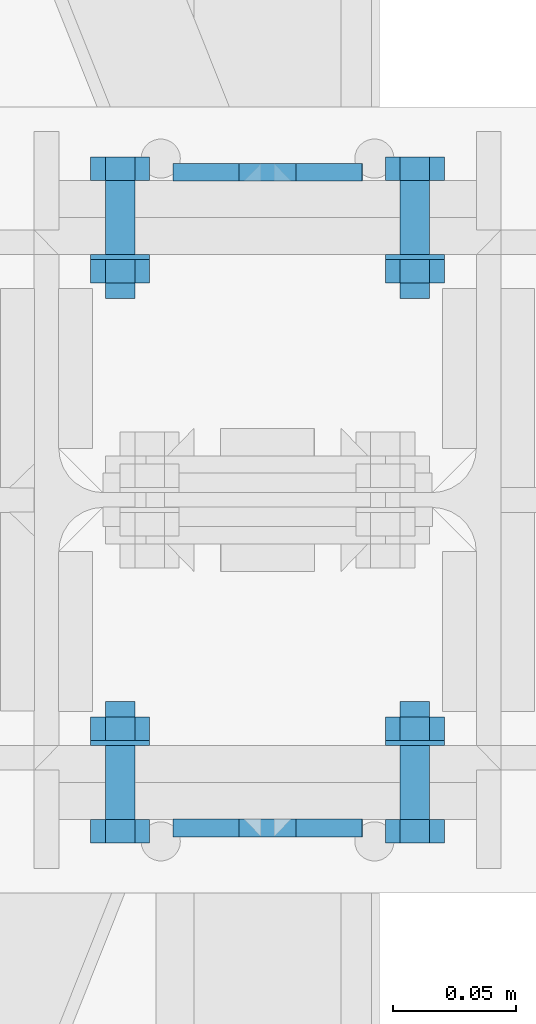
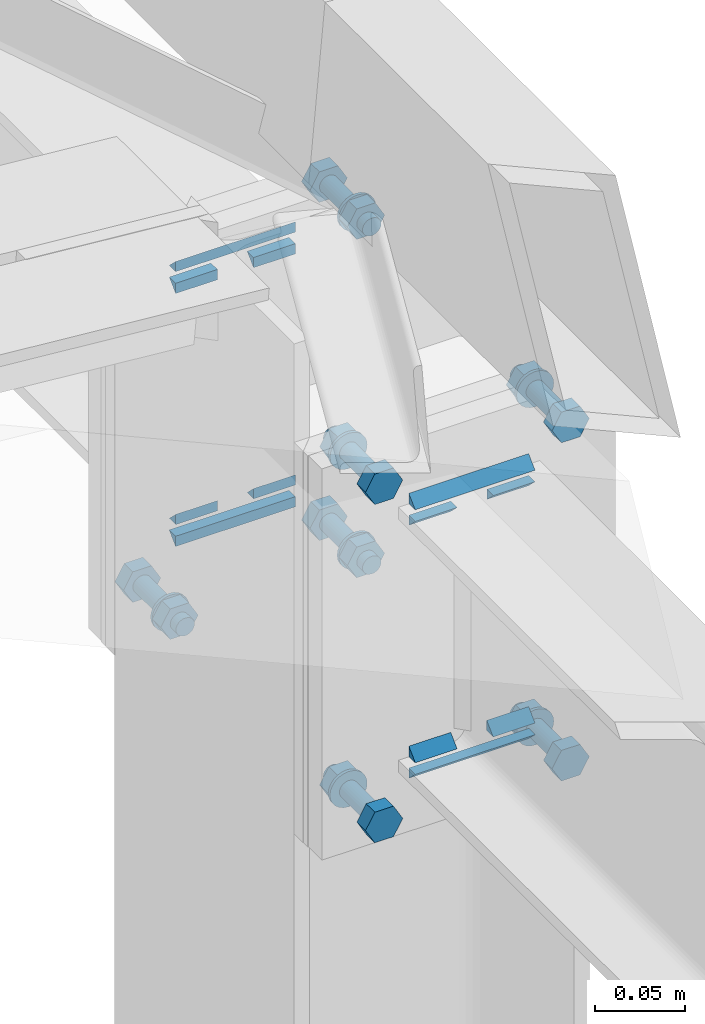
# One storey, part 165 of 251: 28 mechanical fasteners, 24 fasteners.
"""IFC4 building model written with IfcOpenShell, lengths in metres."""

from ifc_helpers import new_model, si_unit, frame, origin_with_axes, place, context, project, spatial, polyline, outline, extrude, type_object, element, save


model = new_model("IFC4")

# Units and contexts
model_context = context("Model", 3, precision=1e-05, world=origin_with_axes())
ifc_project = project(units=[si_unit("LENGTHUNIT", "METRE"), si_unit("AREAUNIT", "SQUARE_METRE"), si_unit("VOLUMEUNIT", "CUBIC_METRE"), si_unit("MASSUNIT", "GRAM", prefix="KILO"), si_unit("TIMEUNIT", "SECOND"), si_unit("PLANEANGLEUNIT", "RADIAN"), si_unit("SOLIDANGLEUNIT", "STERADIAN"), si_unit("THERMODYNAMICTEMPERATUREUNIT", "DEGREE_CELSIUS")], contexts=[model_context])

# Site, building, storey
placement_1 = place(None, origin_with_axes())
site = spatial("IfcSite", under=ifc_project, at=placement_1, Name="Italia", CompositionType="ELEMENT")
building = spatial("IfcBuilding", under=site, at=placement_1, Name="Deposito", CompositionType="ELEMENT")
storey = spatial("IfcBuildingStorey", under=building, at=placement_1, Name="Storey 0", CompositionType="ELEMENT", Elevation=0.0)

# Fasteners
fastener_type_1 = type_object("IfcFastenerType", Name="Collegamenti -064_-065 -065_-064 -065_-066 -066_-065 -066_-067 -067_-066 -067_-068 -068_-067", PredefinedType="WELD")
placement_2 = place(placement_1, origin_with_axes())
fastener_1_placement = place(placement_2, origin_with_axes())
element("IfcFastener", 1, at=fastener_1_placement, inside=storey, type_object=fastener_type_1, Name="Collegamenti -064_-065 -065_-064 -065_-066 -066_-065 -066_-067 -067_-066 -067_-068 -068_-067", context=model_context, shape_type="SweptSolid", body=[
    extrude(outline(polyline([(0.0, 0.0), (0.00717354, -0.00695801), (0.0, -0.00695801), (0.0, 0.0)])), frame((20.0385, 9.87005, 5.89691), z_axis=(-1.0, 0.0, 0.0), x_axis=(0.0, -1.0, 0.0)), (0.0, 0.0, 1.0), 0.0770988),
])
fastener_type_2 = type_object("IfcFastenerType", Name="Collegamenti -064_-065 -065_-064 -065_-066 -066_-065 -066_-067 -067_-066 -067_-068 -068_-067", PredefinedType="WELD")
fastener_2_placement = place(placement_2, origin_with_axes())
element("IfcFastener", 2, at=fastener_2_placement, inside=storey, type_object=fastener_type_2, Name="Collegamenti -064_-065 -065_-064 -065_-066 -066_-065 -066_-067 -067_-066 -067_-068 -068_-067", context=model_context, shape_type="SweptSolid", body=[
    extrude(outline(polyline([(0.0, 0.0), (-0.00717354, 0.00695801), (0.0, 0.00695801), (0.0, 0.0)])), frame((20.0116, 9.87005, 5.87509), z_axis=(1.0, 0.0, 0.0), x_axis=(0.0, 1.0, 0.0)), (0.0, 0.0, 1.0), 0.0269508),
])
fastener_type_3 = type_object("IfcFastenerType", Name="Collegamenti -064_-065 -065_-064 -065_-066 -066_-065 -066_-067 -067_-066 -067_-068 -068_-067", PredefinedType="WELD")
fastener_3_placement = place(placement_2, origin_with_axes())
element("IfcFastener", 3, at=fastener_3_placement, inside=storey, type_object=fastener_type_3, Name="Collegamenti -064_-065 -065_-064 -065_-066 -066_-065 -066_-067 -067_-066 -067_-068 -068_-067", context=model_context, shape_type="SweptSolid", body=[
    extrude(outline(polyline([(0.0, 0.0), (0.00717354, -0.00695801), (0.0, -0.00695801), (0.0, 0.0)])), frame((20.0385, 9.87005, 5.72491), z_axis=(-1.0, 0.0, 0.0), x_axis=(0.0, -1.0, 0.0)), (0.0, 0.0, 1.0), 0.0269508),
])
fastener_type_4 = type_object("IfcFastenerType", Name="Collegamenti -064_-065 -065_-064 -065_-066 -066_-065 -066_-067 -067_-066 -067_-068 -068_-067", PredefinedType="WELD")
fastener_4_placement = place(placement_2, origin_with_axes())
element("IfcFastener", 4, at=fastener_4_placement, inside=storey, type_object=fastener_type_4, Name="Collegamenti -064_-065 -065_-064 -065_-066 -066_-065 -066_-067 -067_-066 -067_-068 -068_-067", context=model_context, shape_type="SweptSolid", body=[
    extrude(outline(polyline([(0.0, 0.0), (-0.00717354, 0.00695801), (0.0, 0.00695801), (0.0, 0.0)])), frame((19.9615, 9.87005, 5.70309), z_axis=(1.0, 0.0, 0.0), x_axis=(0.0, 1.0, 0.0)), (0.0, 0.0, 1.0), 0.0770988),
])
fastener_type_5 = type_object("IfcFastenerType", Name="Collegamenti -064_-065 -065_-064 -065_-066 -066_-065 -066_-067 -067_-066 -067_-068 -068_-067", PredefinedType="WELD")
fastener_5_placement = place(placement_2, origin_with_axes())
element("IfcFastener", 5, at=fastener_5_placement, inside=storey, type_object=fastener_type_5, Name="Collegamenti -064_-065 -065_-064 -065_-066 -066_-065 -066_-067 -067_-066 -067_-068 -068_-067", context=model_context, shape_type="SweptSolid", body=[
    extrude(outline(polyline([(0.0, 0.0), (0.00717354, -0.00695801), (0.0, -0.00695801), (0.0, 0.0)])), frame((19.9884, 9.87005, 5.72491), z_axis=(-1.0, 0.0, 0.0), x_axis=(0.0, -1.0, 0.0)), (0.0, 0.0, 1.0), 0.0269508),
])
fastener_type_6 = type_object("IfcFastenerType", Name="Collegamenti -064_-065 -065_-064 -065_-066 -066_-065 -066_-067 -067_-066 -067_-068 -068_-067", PredefinedType="WELD")
fastener_6_placement = place(placement_2, origin_with_axes())
element("IfcFastener", 6, at=fastener_6_placement, inside=storey, type_object=fastener_type_6, Name="Collegamenti -064_-065 -065_-064 -065_-066 -066_-065 -066_-067 -067_-066 -067_-068 -068_-067", context=model_context, shape_type="SweptSolid", body=[
    extrude(outline(polyline([(0.0, 0.0), (-0.00717354, 0.00695801), (0.0, 0.00695801), (0.0, 0.0)])), frame((19.9615, 9.87005, 5.87509), z_axis=(1.0, 0.0, 0.0), x_axis=(0.0, 1.0, 0.0)), (0.0, 0.0, 1.0), 0.0269508),
])
fastener_type_7 = type_object("IfcFastenerType", Name="Collegamenti -064_-065 -065_-064 -065_-066 -066_-065 -066_-067 -067_-066 -067_-068 -068_-067", PredefinedType="WELD")
fastener_7_placement = place(placement_2, origin_with_axes())
element("IfcFastener", 7, at=fastener_7_placement, inside=storey, type_object=fastener_type_7, Name="Collegamenti -064_-065 -065_-064 -065_-066 -066_-065 -066_-067 -067_-066 -067_-068 -068_-067", context=model_context, shape_type="SweptSolid", body=[
    extrude(outline(polyline([(0.0, 0.0), (0.00717354, -0.00695801), (0.0, -0.00695801), (0.0, 0.0)])), frame((20.0385, 9.87005, 5.89691), z_axis=(-1.0, 0.0, 0.0), x_axis=(0.0, -1.0, 0.0)), (0.0, 0.0, 1.0), 0.0770988),
])
fastener_type_8 = type_object("IfcFastenerType", Name="Collegamenti -064_-065 -065_-064 -065_-066 -066_-065 -066_-067 -067_-066 -067_-068 -068_-067", PredefinedType="WELD")
fastener_8_placement = place(placement_2, origin_with_axes())
element("IfcFastener", 8, at=fastener_8_placement, inside=storey, type_object=fastener_type_8, Name="Collegamenti -064_-065 -065_-064 -065_-066 -066_-065 -066_-067 -067_-066 -067_-068 -068_-067", context=model_context, shape_type="SweptSolid", body=[
    extrude(outline(polyline([(0.0, 0.0), (-0.00717354, 0.00695801), (0.0, 0.00695801), (0.0, 0.0)])), frame((20.0116, 9.87005, 5.87509), z_axis=(1.0, 0.0, 0.0), x_axis=(0.0, 1.0, 0.0)), (0.0, 0.0, 1.0), 0.0269508),
])
fastener_type_9 = type_object("IfcFastenerType", Name="Collegamenti -064_-065 -065_-064 -065_-066 -066_-065 -066_-067 -067_-066 -067_-068 -068_-067", PredefinedType="WELD")
fastener_9_placement = place(placement_2, origin_with_axes())
element("IfcFastener", 9, at=fastener_9_placement, inside=storey, type_object=fastener_type_9, Name="Collegamenti -064_-065 -065_-064 -065_-066 -066_-065 -066_-067 -067_-066 -067_-068 -068_-067", context=model_context, shape_type="SweptSolid", body=[
    extrude(outline(polyline([(0.0, 0.0), (0.00717354, -0.00695801), (0.0, -0.00695801), (0.0, 0.0)])), frame((20.0385, 9.87005, 5.72491), z_axis=(-1.0, 0.0, 0.0), x_axis=(0.0, -1.0, 0.0)), (0.0, 0.0, 1.0), 0.0269508),
])
fastener_type_10 = type_object("IfcFastenerType", Name="Collegamenti -064_-065 -065_-064 -065_-066 -066_-065 -066_-067 -067_-066 -067_-068 -068_-067", PredefinedType="WELD")
fastener_10_placement = place(placement_2, origin_with_axes())
element("IfcFastener", 10, at=fastener_10_placement, inside=storey, type_object=fastener_type_10, Name="Collegamenti -064_-065 -065_-064 -065_-066 -066_-065 -066_-067 -067_-066 -067_-068 -068_-067", context=model_context, shape_type="SweptSolid", body=[
    extrude(outline(polyline([(0.0, 0.0), (-0.00717354, 0.00695801), (0.0, 0.00695801), (0.0, 0.0)])), frame((19.9615, 9.87005, 5.70309), z_axis=(1.0, 0.0, 0.0), x_axis=(0.0, 1.0, 0.0)), (0.0, 0.0, 1.0), 0.0770988),
])
fastener_type_11 = type_object("IfcFastenerType", Name="Collegamenti -064_-065 -065_-064 -065_-066 -066_-065 -066_-067 -067_-066 -067_-068 -068_-067", PredefinedType="WELD")
fastener_11_placement = place(placement_2, origin_with_axes())
element("IfcFastener", 11, at=fastener_11_placement, inside=storey, type_object=fastener_type_11, Name="Collegamenti -064_-065 -065_-064 -065_-066 -066_-065 -066_-067 -067_-066 -067_-068 -068_-067", context=model_context, shape_type="SweptSolid", body=[
    extrude(outline(polyline([(0.0, 0.0), (0.00717354, -0.00695801), (0.0, -0.00695801), (0.0, 0.0)])), frame((19.9884, 9.87005, 5.72491), z_axis=(-1.0, 0.0, 0.0), x_axis=(0.0, -1.0, 0.0)), (0.0, 0.0, 1.0), 0.0269508),
])
fastener_type_12 = type_object("IfcFastenerType", Name="Collegamenti -064_-065 -065_-064 -065_-066 -066_-065 -066_-067 -067_-066 -067_-068 -068_-067", PredefinedType="WELD")
fastener_12_placement = place(placement_2, origin_with_axes())
element("IfcFastener", 12, at=fastener_12_placement, inside=storey, type_object=fastener_type_12, Name="Collegamenti -064_-065 -065_-064 -065_-066 -066_-065 -066_-067 -067_-066 -067_-068 -068_-067", context=model_context, shape_type="SweptSolid", body=[
    extrude(outline(polyline([(0.0, 0.0), (-0.00717354, 0.00695801), (0.0, 0.00695801), (0.0, 0.0)])), frame((19.9615, 9.87005, 5.87509), z_axis=(1.0, 0.0, 0.0), x_axis=(0.0, 1.0, 0.0)), (0.0, 0.0, 1.0), 0.0269508),
])

# Mechanical fasteners
mechanical_fastener_type_1 = type_object("IfcMechanicalFastenerType", Name="Collegamenti -064_-065 -065_-064 -065_-066 -066_-065 -066_-067 -067_-066 -067_-068 -068_-067", PredefinedType="BOLT")
mechanical_fastener_1_placement = place(placement_2, origin_with_axes())
element("IfcMechanicalFastener", 13, at=mechanical_fastener_1_placement, inside=storey, type_object=mechanical_fastener_type_1, Name="Collegamenti -064_-065 -065_-064 -065_-066 -066_-065 -066_-067 -067_-066 -067_-068 -068_-067", NominalDiameter=0.0119991, context=model_context, shape_type="SweptSolid", body=[
    extrude(outline(polyline([(0.0, 0.0), (-0.0119991, 0.0), (-0.0179996, 0.0103927), (-0.0119991, 0.0207849), (0.0, 0.0207849), (0.00600052, 0.0103927), (0.0, 0.0)])), frame((19.946, 9.87, 5.67461), z_axis=(0.0, -1.0, 0.0), x_axis=(1.0, 0.0, 0.0)), (0.0, 0.0, 1.0), 0.00959969),
])
mechanical_fastener_type_2 = type_object("IfcMechanicalFastenerType", Name="Collegamenti -064_-065 -065_-064 -065_-066 -066_-065 -066_-067 -067_-066 -067_-068 -068_-067", PredefinedType="BOLT")
mechanical_fastener_2_placement = place(placement_2, origin_with_axes())
element("IfcMechanicalFastener", 14, at=mechanical_fastener_2_placement, inside=storey, type_object=mechanical_fastener_type_2, Name="Collegamenti -064_-065 -065_-064 -065_-066 -066_-065 -066_-067 -067_-066 -067_-068 -068_-067", NominalDiameter=0.012, context=model_context, shape_type="SweptSolid", body=[
    extrude(outline(polyline([(0.0, 0.0), (-0.000204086, -0.00155306), (-0.000804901, -0.00299978), (-0.00175858, -0.00424242), (-0.00300026, -0.00519609), (-0.00444794, -0.00579548), (-0.00600052, -0.00600004), (-0.0075531, -0.00579548), (-0.00900078, -0.00519609), (-0.0102425, -0.00424242), (-0.0111961, -0.00299978), (-0.011797, -0.00155306), (-0.012001, 0.0), (-0.011797, 0.00155306), (-0.0111961, 0.00299978), (-0.0102425, 0.00424242), (-0.00900078, 0.00519609), (-0.0075531, 0.00579548), (-0.00600052, 0.00600004), (-0.00444794, 0.00579548), (-0.00300026, 0.00519609), (-0.00175858, 0.00424242), (-0.000804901, 0.00299978), (-0.000204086, 0.00155306), (0.0, 0.0)])), frame((19.946, 9.918, 5.685), z_axis=(0.0, -1.0, 0.0), x_axis=(1.0, 0.0, 0.0)), (0.0, 0.0, 1.0), 0.0480003),
])
mechanical_fastener_type_3 = type_object("IfcMechanicalFastenerType", Name="Collegamenti -064_-065 -065_-064 -065_-066 -066_-065 -066_-067 -067_-066 -067_-068 -068_-067", PredefinedType="BOLT")
mechanical_fastener_3_placement = place(placement_2, origin_with_axes())
element("IfcMechanicalFastener", 15, at=mechanical_fastener_3_placement, inside=storey, type_object=mechanical_fastener_type_3, Name="Collegamenti -064_-065 -065_-064 -065_-066 -066_-065 -066_-067 -067_-066 -067_-068 -068_-067", NominalDiameter=0.0119991, context=model_context, shape_type="SweptSolid", body=[
    extrude(outline(polyline([(0.0, 0.0), (-0.0119991, 0.0), (-0.0179996, 0.0103927), (-0.0119991, 0.0207849), (0.0, 0.0207849), (0.00600052, 0.0103927), (0.0, 0.0)])), frame((19.946, 9.9116, 5.67461), z_axis=(0.0, -1.0, 0.0), x_axis=(1.0, 0.0, 0.0)), (0.0, 0.0, 1.0), 0.00959969),
])
mechanical_fastener_type_4 = type_object("IfcMechanicalFastenerType", Name="Collegamenti -064_-065 -065_-064 -065_-066 -066_-065 -066_-067 -067_-066 -067_-068 -068_-067", PredefinedType="BOLT")
mechanical_fastener_4_placement = place(placement_2, origin_with_axes())
element("IfcMechanicalFastener", 16, at=mechanical_fastener_4_placement, inside=storey, type_object=mechanical_fastener_type_4, Name="Collegamenti -064_-065 -065_-064 -065_-066 -066_-065 -066_-067 -067_-066 -067_-068 -068_-067", NominalDiameter=0.024, context=model_context, shape_type="SweptSolid", body=[
    extrude(outline(polyline([(0.0, 0.0), (-0.000408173, -0.00310564), (-0.00160599, -0.00600004), (-0.00351334, -0.00848532), (-0.00599861, -0.0103922), (-0.00889397, -0.011591), (-0.0119991, -0.0120001), (-0.0151043, -0.011591), (-0.0179996, -0.0103922), (-0.0204849, -0.00848532), (-0.0223923, -0.00600004), (-0.0235901, -0.00310564), (-0.0239983, 0.0), (-0.0235901, 0.00310564), (-0.0223923, 0.00600004), (-0.0204849, 0.00848532), (-0.0179996, 0.0103922), (-0.0151043, 0.011591), (-0.0119991, 0.0120001), (-0.00889397, 0.011591), (-0.00599861, 0.0103922), (-0.00351334, 0.00848532), (-0.00160599, 0.00600004), (-0.000408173, 0.00310564), (0.0, 0.0)])), frame((19.952, 9.902, 5.685), z_axis=(0.0, -1.0, 0.0), x_axis=(1.0, 0.0, 0.0)), (0.0, 0.0, 1.0), 0.00200081),
])
mechanical_fastener_type_5 = type_object("IfcMechanicalFastenerType", Name="Collegamenti -064_-065 -065_-064 -065_-066 -066_-065 -066_-067 -067_-066 -067_-068 -068_-067", PredefinedType="BOLT")
mechanical_fastener_5_placement = place(placement_2, origin_with_axes())
element("IfcMechanicalFastener", 17, at=mechanical_fastener_5_placement, inside=storey, type_object=mechanical_fastener_type_5, Name="Collegamenti -064_-065 -065_-064 -065_-066 -066_-065 -066_-067 -067_-066 -067_-068 -068_-067", NominalDiameter=0.0119991, context=model_context, shape_type="SweptSolid", body=[
    extrude(outline(polyline([(0.0, 0.0), (-0.0119991, 0.0), (-0.0179996, 0.0103927), (-0.0119991, 0.0207849), (0.0, 0.0207849), (0.00600052, 0.0103927), (0.0, 0.0)])), frame((20.066, 9.87, 5.67461), z_axis=(0.0, -1.0, 0.0), x_axis=(1.0, 0.0, 0.0)), (0.0, 0.0, 1.0), 0.00959969),
])
mechanical_fastener_type_6 = type_object("IfcMechanicalFastenerType", Name="Collegamenti -064_-065 -065_-064 -065_-066 -066_-065 -066_-067 -067_-066 -067_-068 -068_-067", PredefinedType="BOLT")
mechanical_fastener_6_placement = place(placement_2, origin_with_axes())
element("IfcMechanicalFastener", 18, at=mechanical_fastener_6_placement, inside=storey, type_object=mechanical_fastener_type_6, Name="Collegamenti -064_-065 -065_-064 -065_-066 -066_-065 -066_-067 -067_-066 -067_-068 -068_-067", NominalDiameter=0.012, context=model_context, shape_type="SweptSolid", body=[
    extrude(outline(polyline([(0.0, 0.0), (-0.000204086, -0.00155306), (-0.000804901, -0.00299978), (-0.00175858, -0.00424242), (-0.00300026, -0.00519609), (-0.00444794, -0.00579548), (-0.00600052, -0.00600004), (-0.0075531, -0.00579548), (-0.00900078, -0.00519609), (-0.0102425, -0.00424242), (-0.0111961, -0.00299978), (-0.011797, -0.00155306), (-0.012001, 0.0), (-0.011797, 0.00155306), (-0.0111961, 0.00299978), (-0.0102425, 0.00424242), (-0.00900078, 0.00519609), (-0.0075531, 0.00579548), (-0.00600052, 0.00600004), (-0.00444794, 0.00579548), (-0.00300026, 0.00519609), (-0.00175858, 0.00424242), (-0.000804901, 0.00299978), (-0.000204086, 0.00155306), (0.0, 0.0)])), frame((20.066, 9.918, 5.685), z_axis=(0.0, -1.0, 0.0), x_axis=(1.0, 0.0, 0.0)), (0.0, 0.0, 1.0), 0.0480003),
])
mechanical_fastener_type_7 = type_object("IfcMechanicalFastenerType", Name="Collegamenti -064_-065 -065_-064 -065_-066 -066_-065 -066_-067 -067_-066 -067_-068 -068_-067", PredefinedType="BOLT")
mechanical_fastener_7_placement = place(placement_2, origin_with_axes())
element("IfcMechanicalFastener", 19, at=mechanical_fastener_7_placement, inside=storey, type_object=mechanical_fastener_type_7, Name="Collegamenti -064_-065 -065_-064 -065_-066 -066_-065 -066_-067 -067_-066 -067_-068 -068_-067", NominalDiameter=0.0119991, context=model_context, shape_type="SweptSolid", body=[
    extrude(outline(polyline([(0.0, 0.0), (-0.0119991, 0.0), (-0.0179996, 0.0103927), (-0.0119991, 0.0207849), (0.0, 0.0207849), (0.00600052, 0.0103927), (0.0, 0.0)])), frame((20.066, 9.9116, 5.67461), z_axis=(0.0, -1.0, 0.0), x_axis=(1.0, 0.0, 0.0)), (0.0, 0.0, 1.0), 0.00959969),
])
mechanical_fastener_type_8 = type_object("IfcMechanicalFastenerType", Name="Collegamenti -064_-065 -065_-064 -065_-066 -066_-065 -066_-067 -067_-066 -067_-068 -068_-067", PredefinedType="BOLT")
mechanical_fastener_8_placement = place(placement_2, origin_with_axes())
element("IfcMechanicalFastener", 20, at=mechanical_fastener_8_placement, inside=storey, type_object=mechanical_fastener_type_8, Name="Collegamenti -064_-065 -065_-064 -065_-066 -066_-065 -066_-067 -067_-066 -067_-068 -068_-067", NominalDiameter=0.024, context=model_context, shape_type="SweptSolid", body=[
    extrude(outline(polyline([(0.0, 0.0), (-0.000408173, -0.00310564), (-0.00160599, -0.00600004), (-0.00351334, -0.00848532), (-0.00599861, -0.0103922), (-0.00889397, -0.011591), (-0.0119991, -0.0120001), (-0.0151043, -0.011591), (-0.0179996, -0.0103922), (-0.0204849, -0.00848532), (-0.0223923, -0.00600004), (-0.0235901, -0.00310564), (-0.0239983, 0.0), (-0.0235901, 0.00310564), (-0.0223923, 0.00600004), (-0.0204849, 0.00848532), (-0.0179996, 0.0103922), (-0.0151043, 0.011591), (-0.0119991, 0.0120001), (-0.00889397, 0.011591), (-0.00599861, 0.0103922), (-0.00351334, 0.00848532), (-0.00160599, 0.00600004), (-0.000408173, 0.00310564), (0.0, 0.0)])), frame((20.072, 9.902, 5.685), z_axis=(0.0, -1.0, 0.0), x_axis=(1.0, 0.0, 0.0)), (0.0, 0.0, 1.0), 0.00200081),
])
mechanical_fastener_type_9 = type_object("IfcMechanicalFastenerType", Name="Collegamenti -064_-065 -065_-064 -065_-066 -066_-065 -066_-067 -067_-066 -067_-068 -068_-067", PredefinedType="BOLT")
mechanical_fastener_9_placement = place(placement_2, origin_with_axes())
element("IfcMechanicalFastener", 21, at=mechanical_fastener_9_placement, inside=storey, type_object=mechanical_fastener_type_9, Name="Collegamenti -064_-065 -065_-064 -065_-066 -066_-065 -066_-067 -067_-066 -067_-068 -068_-067", NominalDiameter=0.0119991, context=model_context, shape_type="SweptSolid", body=[
    extrude(outline(polyline([(0.0, 0.0), (-0.0119991, 0.0), (-0.0179996, 0.0103922), (-0.0119991, 0.0207849), (0.0, 0.0207849), (0.00600052, 0.0103922), (0.0, 0.0)])), frame((19.946, 9.87, 5.90461), z_axis=(0.0, -1.0, 0.0), x_axis=(1.0, 0.0, 0.0)), (0.0, 0.0, 1.0), 0.00959969),
])
mechanical_fastener_type_10 = type_object("IfcMechanicalFastenerType", Name="Collegamenti -064_-065 -065_-064 -065_-066 -066_-065 -066_-067 -067_-066 -067_-068 -068_-067", PredefinedType="BOLT")
mechanical_fastener_10_placement = place(placement_2, origin_with_axes())
element("IfcMechanicalFastener", 22, at=mechanical_fastener_10_placement, inside=storey, type_object=mechanical_fastener_type_10, Name="Collegamenti -064_-065 -065_-064 -065_-066 -066_-065 -066_-067 -067_-066 -067_-068 -068_-067", NominalDiameter=0.012, context=model_context, shape_type="SweptSolid", body=[
    extrude(outline(polyline([(0.0, 0.0), (-0.000204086, -0.00155306), (-0.000804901, -0.00299978), (-0.00175858, -0.00424242), (-0.00300026, -0.00519609), (-0.00444794, -0.00579548), (-0.00600052, -0.00600004), (-0.0075531, -0.00579548), (-0.00900078, -0.00519609), (-0.0102425, -0.00424242), (-0.0111961, -0.00299978), (-0.011797, -0.00155306), (-0.012001, 0.0), (-0.011797, 0.00155306), (-0.0111961, 0.00299978), (-0.0102425, 0.00424242), (-0.00900078, 0.00519609), (-0.0075531, 0.00579548), (-0.00600052, 0.00600004), (-0.00444794, 0.00579548), (-0.00300026, 0.00519609), (-0.00175858, 0.00424242), (-0.000804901, 0.00299978), (-0.000204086, 0.00155306), (0.0, 0.0)])), frame((19.946, 9.918, 5.915), z_axis=(0.0, -1.0, 0.0), x_axis=(1.0, 0.0, 0.0)), (0.0, 0.0, 1.0), 0.0480003),
])
mechanical_fastener_type_11 = type_object("IfcMechanicalFastenerType", Name="Collegamenti -064_-065 -065_-064 -065_-066 -066_-065 -066_-067 -067_-066 -067_-068 -068_-067", PredefinedType="BOLT")
mechanical_fastener_11_placement = place(placement_2, origin_with_axes())
element("IfcMechanicalFastener", 23, at=mechanical_fastener_11_placement, inside=storey, type_object=mechanical_fastener_type_11, Name="Collegamenti -064_-065 -065_-064 -065_-066 -066_-065 -066_-067 -067_-066 -067_-068 -068_-067", NominalDiameter=0.0119991, context=model_context, shape_type="SweptSolid", body=[
    extrude(outline(polyline([(0.0, 0.0), (-0.0119991, 0.0), (-0.0179996, 0.0103922), (-0.0119991, 0.0207849), (0.0, 0.0207849), (0.00600052, 0.0103922), (0.0, 0.0)])), frame((19.946, 9.9116, 5.90461), z_axis=(0.0, -1.0, 0.0), x_axis=(1.0, 0.0, 0.0)), (0.0, 0.0, 1.0), 0.00959969),
])
mechanical_fastener_type_12 = type_object("IfcMechanicalFastenerType", Name="Collegamenti -064_-065 -065_-064 -065_-066 -066_-065 -066_-067 -067_-066 -067_-068 -068_-067", PredefinedType="BOLT")
mechanical_fastener_12_placement = place(placement_2, origin_with_axes())
element("IfcMechanicalFastener", 24, at=mechanical_fastener_12_placement, inside=storey, type_object=mechanical_fastener_type_12, Name="Collegamenti -064_-065 -065_-064 -065_-066 -066_-065 -066_-067 -067_-066 -067_-068 -068_-067", NominalDiameter=0.024, context=model_context, shape_type="SweptSolid", body=[
    extrude(outline(polyline([(0.0, 0.0), (-0.000408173, -0.00310564), (-0.00160599, -0.00600004), (-0.00351334, -0.00848532), (-0.00599861, -0.0103922), (-0.00889397, -0.011591), (-0.0119991, -0.0120001), (-0.0151043, -0.011591), (-0.0179996, -0.0103922), (-0.0204849, -0.00848532), (-0.0223923, -0.00600004), (-0.0235901, -0.00310564), (-0.0239983, 0.0), (-0.0235901, 0.00310564), (-0.0223923, 0.00600004), (-0.0204849, 0.00848532), (-0.0179996, 0.0103922), (-0.0151043, 0.011591), (-0.0119991, 0.0120001), (-0.00889397, 0.011591), (-0.00599861, 0.0103922), (-0.00351334, 0.00848532), (-0.00160599, 0.00600004), (-0.000408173, 0.00310564), (0.0, 0.0)])), frame((19.952, 9.902, 5.915), z_axis=(0.0, -1.0, 0.0), x_axis=(1.0, 0.0, 0.0)), (0.0, 0.0, 1.0), 0.00200081),
])
mechanical_fastener_type_13 = type_object("IfcMechanicalFastenerType", Name="Collegamenti -064_-065 -065_-064 -065_-066 -066_-065 -066_-067 -067_-066 -067_-068 -068_-067", PredefinedType="BOLT")
mechanical_fastener_13_placement = place(placement_2, origin_with_axes())
element("IfcMechanicalFastener", 25, at=mechanical_fastener_13_placement, inside=storey, type_object=mechanical_fastener_type_13, Name="Collegamenti -064_-065 -065_-064 -065_-066 -066_-065 -066_-067 -067_-066 -067_-068 -068_-067", NominalDiameter=0.0119991, context=model_context, shape_type="SweptSolid", body=[
    extrude(outline(polyline([(0.0, 0.0), (-0.0119991, 0.0), (-0.0179996, 0.0103922), (-0.0119991, 0.0207849), (0.0, 0.0207849), (0.00600052, 0.0103922), (0.0, 0.0)])), frame((20.066, 9.87, 5.90461), z_axis=(0.0, -1.0, 0.0), x_axis=(1.0, 0.0, 0.0)), (0.0, 0.0, 1.0), 0.00959969),
])
mechanical_fastener_type_14 = type_object("IfcMechanicalFastenerType", Name="Collegamenti -064_-065 -065_-064 -065_-066 -066_-065 -066_-067 -067_-066 -067_-068 -068_-067", PredefinedType="BOLT")
mechanical_fastener_14_placement = place(placement_2, origin_with_axes())
element("IfcMechanicalFastener", 26, at=mechanical_fastener_14_placement, inside=storey, type_object=mechanical_fastener_type_14, Name="Collegamenti -064_-065 -065_-064 -065_-066 -066_-065 -066_-067 -067_-066 -067_-068 -068_-067", NominalDiameter=0.012, context=model_context, shape_type="SweptSolid", body=[
    extrude(outline(polyline([(0.0, 0.0), (-0.000204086, -0.00155306), (-0.000804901, -0.00299978), (-0.00175858, -0.00424242), (-0.00300026, -0.00519609), (-0.00444794, -0.00579548), (-0.00600052, -0.00600004), (-0.0075531, -0.00579548), (-0.00900078, -0.00519609), (-0.0102425, -0.00424242), (-0.0111961, -0.00299978), (-0.011797, -0.00155306), (-0.012001, 0.0), (-0.011797, 0.00155306), (-0.0111961, 0.00299978), (-0.0102425, 0.00424242), (-0.00900078, 0.00519609), (-0.0075531, 0.00579548), (-0.00600052, 0.00600004), (-0.00444794, 0.00579548), (-0.00300026, 0.00519609), (-0.00175858, 0.00424242), (-0.000804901, 0.00299978), (-0.000204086, 0.00155306), (0.0, 0.0)])), frame((20.066, 9.918, 5.915), z_axis=(0.0, -1.0, 0.0), x_axis=(1.0, 0.0, 0.0)), (0.0, 0.0, 1.0), 0.0480003),
])
mechanical_fastener_type_15 = type_object("IfcMechanicalFastenerType", Name="Collegamenti -064_-065 -065_-064 -065_-066 -066_-065 -066_-067 -067_-066 -067_-068 -068_-067", PredefinedType="BOLT")
mechanical_fastener_15_placement = place(placement_2, origin_with_axes())
element("IfcMechanicalFastener", 27, at=mechanical_fastener_15_placement, inside=storey, type_object=mechanical_fastener_type_15, Name="Collegamenti -064_-065 -065_-064 -065_-066 -066_-065 -066_-067 -067_-066 -067_-068 -068_-067", NominalDiameter=0.0119991, context=model_context, shape_type="SweptSolid", body=[
    extrude(outline(polyline([(0.0, 0.0), (-0.0119991, 0.0), (-0.0179996, 0.0103922), (-0.0119991, 0.0207849), (0.0, 0.0207849), (0.00600052, 0.0103922), (0.0, 0.0)])), frame((20.066, 9.9116, 5.90461), z_axis=(0.0, -1.0, 0.0), x_axis=(1.0, 0.0, 0.0)), (0.0, 0.0, 1.0), 0.00959969),
])
mechanical_fastener_type_16 = type_object("IfcMechanicalFastenerType", Name="Collegamenti -064_-065 -065_-064 -065_-066 -066_-065 -066_-067 -067_-066 -067_-068 -068_-067", PredefinedType="BOLT")
mechanical_fastener_16_placement = place(placement_2, origin_with_axes())
element("IfcMechanicalFastener", 28, at=mechanical_fastener_16_placement, inside=storey, type_object=mechanical_fastener_type_16, Name="Collegamenti -064_-065 -065_-064 -065_-066 -066_-065 -066_-067 -067_-066 -067_-068 -068_-067", NominalDiameter=0.024, context=model_context, shape_type="SweptSolid", body=[
    extrude(outline(polyline([(0.0, 0.0), (-0.000408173, -0.00310564), (-0.00160599, -0.00600004), (-0.00351334, -0.00848532), (-0.00599861, -0.0103922), (-0.00889397, -0.011591), (-0.0119991, -0.0120001), (-0.0151043, -0.011591), (-0.0179996, -0.0103922), (-0.0204849, -0.00848532), (-0.0223923, -0.00600004), (-0.0235901, -0.00310564), (-0.0239983, 0.0), (-0.0235901, 0.00310564), (-0.0223923, 0.00600004), (-0.0204849, 0.00848532), (-0.0179996, 0.0103922), (-0.0151043, 0.011591), (-0.0119991, 0.0120001), (-0.00889397, 0.011591), (-0.00599861, 0.0103922), (-0.00351334, 0.00848532), (-0.00160599, 0.00600004), (-0.000408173, 0.00310564), (0.0, 0.0)])), frame((20.072, 9.902, 5.915), z_axis=(0.0, -1.0, 0.0), x_axis=(1.0, 0.0, 0.0)), (0.0, 0.0, 1.0), 0.00200081),
])

# Fasteners
fastener_type_13 = type_object("IfcFastenerType", Name="Collegamenti -064_-065 -065_-064 -065_-066 -066_-065 -066_-067 -067_-066 -067_-068 -068_-067", PredefinedType="WELD")
fastener_13_placement = place(placement_2, origin_with_axes())
element("IfcFastener", 29, at=fastener_13_placement, inside=storey, type_object=fastener_type_13, Name="Collegamenti -064_-065 -065_-064 -065_-066 -066_-065 -066_-067 -067_-066 -067_-068 -068_-067", context=model_context, shape_type="SweptSolid", body=[
    extrude(outline(polyline([(0.0, 0.0), (0.00717354, -0.00695801), (0.0, -0.00695801), (0.0, 0.0)])), frame((19.9615, 10.1299, 5.89691), z_axis=(1.0, 0.0, 0.0), x_axis=(0.0, 1.0, 0.0)), (0.0, 0.0, 1.0), 0.0770988),
])
fastener_type_14 = type_object("IfcFastenerType", Name="Collegamenti -064_-065 -065_-064 -065_-066 -066_-065 -066_-067 -067_-066 -067_-068 -068_-067", PredefinedType="WELD")
fastener_14_placement = place(placement_2, origin_with_axes())
element("IfcFastener", 30, at=fastener_14_placement, inside=storey, type_object=fastener_type_14, Name="Collegamenti -064_-065 -065_-064 -065_-066 -066_-065 -066_-067 -067_-066 -067_-068 -068_-067", context=model_context, shape_type="SweptSolid", body=[
    extrude(outline(polyline([(0.0, 0.0), (-0.00717354, 0.00695801), (0.0, 0.00695801), (0.0, 0.0)])), frame((19.9884, 10.1299, 5.87509), z_axis=(-1.0, 0.0, 0.0), x_axis=(0.0, -1.0, 0.0)), (0.0, 0.0, 1.0), 0.0269508),
])
fastener_type_15 = type_object("IfcFastenerType", Name="Collegamenti -064_-065 -065_-064 -065_-066 -066_-065 -066_-067 -067_-066 -067_-068 -068_-067", PredefinedType="WELD")
fastener_15_placement = place(placement_2, origin_with_axes())
element("IfcFastener", 31, at=fastener_15_placement, inside=storey, type_object=fastener_type_15, Name="Collegamenti -064_-065 -065_-064 -065_-066 -066_-065 -066_-067 -067_-066 -067_-068 -068_-067", context=model_context, shape_type="SweptSolid", body=[
    extrude(outline(polyline([(0.0, 0.0), (0.00717354, -0.00695801), (0.0, -0.00695801), (0.0, 0.0)])), frame((19.9615, 10.1299, 5.72491), z_axis=(1.0, 0.0, 0.0), x_axis=(0.0, 1.0, 0.0)), (0.0, 0.0, 1.0), 0.0269508),
])
fastener_type_16 = type_object("IfcFastenerType", Name="Collegamenti -064_-065 -065_-064 -065_-066 -066_-065 -066_-067 -067_-066 -067_-068 -068_-067", PredefinedType="WELD")
fastener_16_placement = place(placement_2, origin_with_axes())
element("IfcFastener", 32, at=fastener_16_placement, inside=storey, type_object=fastener_type_16, Name="Collegamenti -064_-065 -065_-064 -065_-066 -066_-065 -066_-067 -067_-066 -067_-068 -068_-067", context=model_context, shape_type="SweptSolid", body=[
    extrude(outline(polyline([(0.0, 0.0), (-0.00717354, 0.00695801), (0.0, 0.00695801), (0.0, 0.0)])), frame((20.0385, 10.1299, 5.70309), z_axis=(-1.0, 0.0, 0.0), x_axis=(0.0, -1.0, 0.0)), (0.0, 0.0, 1.0), 0.0770988),
])
fastener_type_17 = type_object("IfcFastenerType", Name="Collegamenti -064_-065 -065_-064 -065_-066 -066_-065 -066_-067 -067_-066 -067_-068 -068_-067", PredefinedType="WELD")
fastener_17_placement = place(placement_2, origin_with_axes())
element("IfcFastener", 33, at=fastener_17_placement, inside=storey, type_object=fastener_type_17, Name="Collegamenti -064_-065 -065_-064 -065_-066 -066_-065 -066_-067 -067_-066 -067_-068 -068_-067", context=model_context, shape_type="SweptSolid", body=[
    extrude(outline(polyline([(0.0, 0.0), (0.00717354, -0.00695801), (0.0, -0.00695801), (0.0, 0.0)])), frame((20.0116, 10.1299, 5.72491), z_axis=(1.0, 0.0, 0.0), x_axis=(0.0, 1.0, 0.0)), (0.0, 0.0, 1.0), 0.0269508),
])
fastener_type_18 = type_object("IfcFastenerType", Name="Collegamenti -064_-065 -065_-064 -065_-066 -066_-065 -066_-067 -067_-066 -067_-068 -068_-067", PredefinedType="WELD")
fastener_18_placement = place(placement_2, origin_with_axes())
element("IfcFastener", 34, at=fastener_18_placement, inside=storey, type_object=fastener_type_18, Name="Collegamenti -064_-065 -065_-064 -065_-066 -066_-065 -066_-067 -067_-066 -067_-068 -068_-067", context=model_context, shape_type="SweptSolid", body=[
    extrude(outline(polyline([(0.0, 0.0), (-0.00717354, 0.00695801), (0.0, 0.00695801), (0.0, 0.0)])), frame((20.0385, 10.1299, 5.87509), z_axis=(-1.0, 0.0, 0.0), x_axis=(0.0, -1.0, 0.0)), (0.0, 0.0, 1.0), 0.0269508),
])
fastener_type_19 = type_object("IfcFastenerType", Name="Collegamenti -064_-065 -065_-064 -065_-066 -066_-065 -066_-067 -067_-066 -067_-068 -068_-067", PredefinedType="WELD")
fastener_19_placement = place(placement_2, origin_with_axes())
element("IfcFastener", 35, at=fastener_19_placement, inside=storey, type_object=fastener_type_19, Name="Collegamenti -064_-065 -065_-064 -065_-066 -066_-065 -066_-067 -067_-066 -067_-068 -068_-067", context=model_context, shape_type="SweptSolid", body=[
    extrude(outline(polyline([(0.0, 0.0), (0.00717354, -0.00695801), (0.0, -0.00695801), (0.0, 0.0)])), frame((19.9615, 10.1299, 5.89691), z_axis=(1.0, 0.0, 0.0), x_axis=(0.0, 1.0, 0.0)), (0.0, 0.0, 1.0), 0.0770988),
])
fastener_type_20 = type_object("IfcFastenerType", Name="Collegamenti -064_-065 -065_-064 -065_-066 -066_-065 -066_-067 -067_-066 -067_-068 -068_-067", PredefinedType="WELD")
fastener_20_placement = place(placement_2, origin_with_axes())
element("IfcFastener", 36, at=fastener_20_placement, inside=storey, type_object=fastener_type_20, Name="Collegamenti -064_-065 -065_-064 -065_-066 -066_-065 -066_-067 -067_-066 -067_-068 -068_-067", context=model_context, shape_type="SweptSolid", body=[
    extrude(outline(polyline([(0.0, 0.0), (-0.00717354, 0.00695801), (0.0, 0.00695801), (0.0, 0.0)])), frame((19.9884, 10.1299, 5.87509), z_axis=(-1.0, 0.0, 0.0), x_axis=(0.0, -1.0, 0.0)), (0.0, 0.0, 1.0), 0.0269508),
])
fastener_type_21 = type_object("IfcFastenerType", Name="Collegamenti -064_-065 -065_-064 -065_-066 -066_-065 -066_-067 -067_-066 -067_-068 -068_-067", PredefinedType="WELD")
fastener_21_placement = place(placement_2, origin_with_axes())
element("IfcFastener", 37, at=fastener_21_placement, inside=storey, type_object=fastener_type_21, Name="Collegamenti -064_-065 -065_-064 -065_-066 -066_-065 -066_-067 -067_-066 -067_-068 -068_-067", context=model_context, shape_type="SweptSolid", body=[
    extrude(outline(polyline([(0.0, 0.0), (0.00717354, -0.00695801), (0.0, -0.00695801), (0.0, 0.0)])), frame((19.9615, 10.1299, 5.72491), z_axis=(1.0, 0.0, 0.0), x_axis=(0.0, 1.0, 0.0)), (0.0, 0.0, 1.0), 0.0269508),
])
fastener_type_22 = type_object("IfcFastenerType", Name="Collegamenti -064_-065 -065_-064 -065_-066 -066_-065 -066_-067 -067_-066 -067_-068 -068_-067", PredefinedType="WELD")
fastener_22_placement = place(placement_2, origin_with_axes())
element("IfcFastener", 38, at=fastener_22_placement, inside=storey, type_object=fastener_type_22, Name="Collegamenti -064_-065 -065_-064 -065_-066 -066_-065 -066_-067 -067_-066 -067_-068 -068_-067", context=model_context, shape_type="SweptSolid", body=[
    extrude(outline(polyline([(0.0, 0.0), (-0.00717354, 0.00695801), (0.0, 0.00695801), (0.0, 0.0)])), frame((20.0385, 10.1299, 5.70309), z_axis=(-1.0, 0.0, 0.0), x_axis=(0.0, -1.0, 0.0)), (0.0, 0.0, 1.0), 0.0770988),
])
fastener_type_23 = type_object("IfcFastenerType", Name="Collegamenti -064_-065 -065_-064 -065_-066 -066_-065 -066_-067 -067_-066 -067_-068 -068_-067", PredefinedType="WELD")
fastener_23_placement = place(placement_2, origin_with_axes())
element("IfcFastener", 39, at=fastener_23_placement, inside=storey, type_object=fastener_type_23, Name="Collegamenti -064_-065 -065_-064 -065_-066 -066_-065 -066_-067 -067_-066 -067_-068 -068_-067", context=model_context, shape_type="SweptSolid", body=[
    extrude(outline(polyline([(0.0, 0.0), (0.00717354, -0.00695801), (0.0, -0.00695801), (0.0, 0.0)])), frame((20.0116, 10.1299, 5.72491), z_axis=(1.0, 0.0, 0.0), x_axis=(0.0, 1.0, 0.0)), (0.0, 0.0, 1.0), 0.0269508),
])
fastener_type_24 = type_object("IfcFastenerType", Name="Collegamenti -064_-065 -065_-064 -065_-066 -066_-065 -066_-067 -067_-066 -067_-068 -068_-067", PredefinedType="WELD")
fastener_24_placement = place(placement_2, origin_with_axes())
element("IfcFastener", 40, at=fastener_24_placement, inside=storey, type_object=fastener_type_24, Name="Collegamenti -064_-065 -065_-064 -065_-066 -066_-065 -066_-067 -067_-066 -067_-068 -068_-067", context=model_context, shape_type="SweptSolid", body=[
    extrude(outline(polyline([(0.0, 0.0), (-0.00717354, 0.00695801), (0.0, 0.00695801), (0.0, 0.0)])), frame((20.0385, 10.1299, 5.87509), z_axis=(-1.0, 0.0, 0.0), x_axis=(0.0, -1.0, 0.0)), (0.0, 0.0, 1.0), 0.0269508),
])

# Mechanical fasteners
mechanical_fastener_type_17 = type_object("IfcMechanicalFastenerType", Name="Collegamenti -064_-065 -065_-064 -065_-066 -066_-065 -066_-067 -067_-066 -067_-068 -068_-067", PredefinedType="BOLT")
mechanical_fastener_17_placement = place(placement_2, origin_with_axes())
element("IfcMechanicalFastener", 41, at=mechanical_fastener_17_placement, inside=storey, type_object=mechanical_fastener_type_17, Name="Collegamenti -064_-065 -065_-064 -065_-066 -066_-065 -066_-067 -067_-066 -067_-068 -068_-067", NominalDiameter=0.0119991, context=model_context, shape_type="SweptSolid", body=[
    extrude(outline(polyline([(0.0, 0.0), (-0.0119991, 0.0), (-0.0179996, 0.0103927), (-0.0119991, 0.0207849), (0.0, 0.0207849), (0.00600052, 0.0103927), (0.0, 0.0)])), frame((20.054, 10.13, 5.67461), z_axis=(0.0, 1.0, 0.0), x_axis=(-1.0, 0.0, 0.0)), (0.0, 0.0, 1.0), 0.00959969),
])
mechanical_fastener_type_18 = type_object("IfcMechanicalFastenerType", Name="Collegamenti -064_-065 -065_-064 -065_-066 -066_-065 -066_-067 -067_-066 -067_-068 -068_-067", PredefinedType="BOLT")
mechanical_fastener_18_placement = place(placement_2, origin_with_axes())
element("IfcMechanicalFastener", 42, at=mechanical_fastener_18_placement, inside=storey, type_object=mechanical_fastener_type_18, Name="Collegamenti -064_-065 -065_-064 -065_-066 -066_-065 -066_-067 -067_-066 -067_-068 -068_-067", NominalDiameter=0.012, context=model_context, shape_type="SweptSolid", body=[
    extrude(outline(polyline([(0.0, 0.0), (-0.000204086, -0.00155306), (-0.000804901, -0.00299978), (-0.00175858, -0.00424242), (-0.00300026, -0.00519609), (-0.00444794, -0.00579548), (-0.00600052, -0.00600004), (-0.0075531, -0.00579548), (-0.00900078, -0.00519609), (-0.0102425, -0.00424242), (-0.0111961, -0.00299978), (-0.011797, -0.00155306), (-0.012001, 0.0), (-0.011797, 0.00155306), (-0.0111961, 0.00299978), (-0.0102425, 0.00424242), (-0.00900078, 0.00519609), (-0.0075531, 0.00579548), (-0.00600052, 0.00600004), (-0.00444794, 0.00579548), (-0.00300026, 0.00519609), (-0.00175858, 0.00424242), (-0.000804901, 0.00299978), (-0.000204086, 0.00155306), (0.0, 0.0)])), frame((20.054, 10.082, 5.685), z_axis=(0.0, 1.0, 0.0), x_axis=(-1.0, 0.0, 0.0)), (0.0, 0.0, 1.0), 0.0480003),
])
mechanical_fastener_type_19 = type_object("IfcMechanicalFastenerType", Name="Collegamenti -064_-065 -065_-064 -065_-066 -066_-065 -066_-067 -067_-066 -067_-068 -068_-067", PredefinedType="BOLT")
mechanical_fastener_19_placement = place(placement_2, origin_with_axes())
element("IfcMechanicalFastener", 43, at=mechanical_fastener_19_placement, inside=storey, type_object=mechanical_fastener_type_19, Name="Collegamenti -064_-065 -065_-064 -065_-066 -066_-065 -066_-067 -067_-066 -067_-068 -068_-067", NominalDiameter=0.0119991, context=model_context, shape_type="SweptSolid", body=[
    extrude(outline(polyline([(0.0, 0.0), (-0.0119991, 0.0), (-0.0179996, 0.0103927), (-0.0119991, 0.0207849), (0.0, 0.0207849), (0.00600052, 0.0103927), (0.0, 0.0)])), frame((20.054, 10.0884, 5.67461), z_axis=(0.0, 1.0, 0.0), x_axis=(-1.0, 0.0, 0.0)), (0.0, 0.0, 1.0), 0.00959969),
])
mechanical_fastener_type_20 = type_object("IfcMechanicalFastenerType", Name="Collegamenti -064_-065 -065_-064 -065_-066 -066_-065 -066_-067 -067_-066 -067_-068 -068_-067", PredefinedType="BOLT")
mechanical_fastener_20_placement = place(placement_2, origin_with_axes())
element("IfcMechanicalFastener", 44, at=mechanical_fastener_20_placement, inside=storey, type_object=mechanical_fastener_type_20, Name="Collegamenti -064_-065 -065_-064 -065_-066 -066_-065 -066_-067 -067_-066 -067_-068 -068_-067", NominalDiameter=0.024, context=model_context, shape_type="SweptSolid", body=[
    extrude(outline(polyline([(0.0, 0.0), (-0.000408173, -0.00310564), (-0.00160599, -0.00600004), (-0.00351334, -0.00848532), (-0.00599861, -0.0103922), (-0.00889397, -0.011591), (-0.0119991, -0.0120001), (-0.0151043, -0.011591), (-0.0179996, -0.0103922), (-0.0204849, -0.00848532), (-0.0223923, -0.00600004), (-0.0235901, -0.00310564), (-0.0239983, 0.0), (-0.0235901, 0.00310564), (-0.0223923, 0.00600004), (-0.0204849, 0.00848532), (-0.0179996, 0.0103922), (-0.0151043, 0.011591), (-0.0119991, 0.0120001), (-0.00889397, 0.011591), (-0.00599861, 0.0103922), (-0.00351334, 0.00848532), (-0.00160599, 0.00600004), (-0.000408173, 0.00310564), (0.0, 0.0)])), frame((20.048, 10.098, 5.685), z_axis=(0.0, 1.0, 0.0), x_axis=(-1.0, 0.0, 0.0)), (0.0, 0.0, 1.0), 0.00200081),
])
mechanical_fastener_type_21 = type_object("IfcMechanicalFastenerType", Name="Collegamenti -064_-065 -065_-064 -065_-066 -066_-065 -066_-067 -067_-066 -067_-068 -068_-067", PredefinedType="BOLT")
mechanical_fastener_21_placement = place(placement_2, origin_with_axes())
element("IfcMechanicalFastener", 45, at=mechanical_fastener_21_placement, inside=storey, type_object=mechanical_fastener_type_21, Name="Collegamenti -064_-065 -065_-064 -065_-066 -066_-065 -066_-067 -067_-066 -067_-068 -068_-067", NominalDiameter=0.0119991, context=model_context, shape_type="SweptSolid", body=[
    extrude(outline(polyline([(0.0, 0.0), (-0.0119991, 0.0), (-0.0179996, 0.0103927), (-0.0119991, 0.0207849), (0.0, 0.0207849), (0.00600052, 0.0103927), (0.0, 0.0)])), frame((19.934, 10.13, 5.67461), z_axis=(0.0, 1.0, 0.0), x_axis=(-1.0, 0.0, 0.0)), (0.0, 0.0, 1.0), 0.00959969),
])
mechanical_fastener_type_22 = type_object("IfcMechanicalFastenerType", Name="Collegamenti -064_-065 -065_-064 -065_-066 -066_-065 -066_-067 -067_-066 -067_-068 -068_-067", PredefinedType="BOLT")
mechanical_fastener_22_placement = place(placement_2, origin_with_axes())
element("IfcMechanicalFastener", 46, at=mechanical_fastener_22_placement, inside=storey, type_object=mechanical_fastener_type_22, Name="Collegamenti -064_-065 -065_-064 -065_-066 -066_-065 -066_-067 -067_-066 -067_-068 -068_-067", NominalDiameter=0.012, context=model_context, shape_type="SweptSolid", body=[
    extrude(outline(polyline([(0.0, 0.0), (-0.000204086, -0.00155306), (-0.000804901, -0.00299978), (-0.00175858, -0.00424242), (-0.00300026, -0.00519609), (-0.00444794, -0.00579548), (-0.00600052, -0.00600004), (-0.0075531, -0.00579548), (-0.00900078, -0.00519609), (-0.0102425, -0.00424242), (-0.0111961, -0.00299978), (-0.011797, -0.00155306), (-0.012001, 0.0), (-0.011797, 0.00155306), (-0.0111961, 0.00299978), (-0.0102425, 0.00424242), (-0.00900078, 0.00519609), (-0.0075531, 0.00579548), (-0.00600052, 0.00600004), (-0.00444794, 0.00579548), (-0.00300026, 0.00519609), (-0.00175858, 0.00424242), (-0.000804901, 0.00299978), (-0.000204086, 0.00155306), (0.0, 0.0)])), frame((19.934, 10.082, 5.685), z_axis=(0.0, 1.0, 0.0), x_axis=(-1.0, 0.0, 0.0)), (0.0, 0.0, 1.0), 0.0480003),
])
mechanical_fastener_type_23 = type_object("IfcMechanicalFastenerType", Name="Collegamenti -064_-065 -065_-064 -065_-066 -066_-065 -066_-067 -067_-066 -067_-068 -068_-067", PredefinedType="BOLT")
mechanical_fastener_23_placement = place(placement_2, origin_with_axes())
element("IfcMechanicalFastener", 47, at=mechanical_fastener_23_placement, inside=storey, type_object=mechanical_fastener_type_23, Name="Collegamenti -064_-065 -065_-064 -065_-066 -066_-065 -066_-067 -067_-066 -067_-068 -068_-067", NominalDiameter=0.0119991, context=model_context, shape_type="SweptSolid", body=[
    extrude(outline(polyline([(0.0, 0.0), (-0.0119991, 0.0), (-0.0179996, 0.0103927), (-0.0119991, 0.0207849), (0.0, 0.0207849), (0.00600052, 0.0103927), (0.0, 0.0)])), frame((19.934, 10.0884, 5.67461), z_axis=(0.0, 1.0, 0.0), x_axis=(-1.0, 0.0, 0.0)), (0.0, 0.0, 1.0), 0.00959969),
])
mechanical_fastener_type_24 = type_object("IfcMechanicalFastenerType", Name="Collegamenti -064_-065 -065_-064 -065_-066 -066_-065 -066_-067 -067_-066 -067_-068 -068_-067", PredefinedType="BOLT")
mechanical_fastener_24_placement = place(placement_2, origin_with_axes())
element("IfcMechanicalFastener", 48, at=mechanical_fastener_24_placement, inside=storey, type_object=mechanical_fastener_type_24, Name="Collegamenti -064_-065 -065_-064 -065_-066 -066_-065 -066_-067 -067_-066 -067_-068 -068_-067", NominalDiameter=0.024, context=model_context, shape_type="SweptSolid", body=[
    extrude(outline(polyline([(0.0, 0.0), (-0.000408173, -0.00310564), (-0.00160599, -0.00600004), (-0.00351334, -0.00848532), (-0.00599861, -0.0103922), (-0.00889397, -0.011591), (-0.0119991, -0.0120001), (-0.0151043, -0.011591), (-0.0179996, -0.0103922), (-0.0204849, -0.00848532), (-0.0223923, -0.00600004), (-0.0235901, -0.00310564), (-0.0239983, 0.0), (-0.0235901, 0.00310564), (-0.0223923, 0.00600004), (-0.0204849, 0.00848532), (-0.0179996, 0.0103922), (-0.0151043, 0.011591), (-0.0119991, 0.0120001), (-0.00889397, 0.011591), (-0.00599861, 0.0103922), (-0.00351334, 0.00848532), (-0.00160599, 0.00600004), (-0.000408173, 0.00310564), (0.0, 0.0)])), frame((19.928, 10.098, 5.685), z_axis=(0.0, 1.0, 0.0), x_axis=(-1.0, 0.0, 0.0)), (0.0, 0.0, 1.0), 0.00200081),
])
mechanical_fastener_type_25 = type_object("IfcMechanicalFastenerType", Name="Collegamenti -064_-065 -065_-064 -065_-066 -066_-065 -066_-067 -067_-066 -067_-068 -068_-067", PredefinedType="BOLT")
mechanical_fastener_25_placement = place(placement_2, origin_with_axes())
element("IfcMechanicalFastener", 49, at=mechanical_fastener_25_placement, inside=storey, type_object=mechanical_fastener_type_25, Name="Collegamenti -064_-065 -065_-064 -065_-066 -066_-065 -066_-067 -067_-066 -067_-068 -068_-067", NominalDiameter=0.0119991, context=model_context, shape_type="SweptSolid", body=[
    extrude(outline(polyline([(0.0, 0.0), (-0.0119991, 0.0), (-0.0179996, 0.0103922), (-0.0119991, 0.0207849), (0.0, 0.0207849), (0.00600052, 0.0103922), (0.0, 0.0)])), frame((20.054, 10.13, 5.90461), z_axis=(0.0, 1.0, 0.0), x_axis=(-1.0, 0.0, 0.0)), (0.0, 0.0, 1.0), 0.00959969),
])
mechanical_fastener_type_26 = type_object("IfcMechanicalFastenerType", Name="Collegamenti -064_-065 -065_-064 -065_-066 -066_-065 -066_-067 -067_-066 -067_-068 -068_-067", PredefinedType="BOLT")
mechanical_fastener_26_placement = place(placement_2, origin_with_axes())
element("IfcMechanicalFastener", 50, at=mechanical_fastener_26_placement, inside=storey, type_object=mechanical_fastener_type_26, Name="Collegamenti -064_-065 -065_-064 -065_-066 -066_-065 -066_-067 -067_-066 -067_-068 -068_-067", NominalDiameter=0.012, context=model_context, shape_type="SweptSolid", body=[
    extrude(outline(polyline([(0.0, 0.0), (-0.000204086, -0.00155306), (-0.000804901, -0.00299978), (-0.00175858, -0.00424242), (-0.00300026, -0.00519609), (-0.00444794, -0.00579548), (-0.00600052, -0.00600004), (-0.0075531, -0.00579548), (-0.00900078, -0.00519609), (-0.0102425, -0.00424242), (-0.0111961, -0.00299978), (-0.011797, -0.00155306), (-0.012001, 0.0), (-0.011797, 0.00155306), (-0.0111961, 0.00299978), (-0.0102425, 0.00424242), (-0.00900078, 0.00519609), (-0.0075531, 0.00579548), (-0.00600052, 0.00600004), (-0.00444794, 0.00579548), (-0.00300026, 0.00519609), (-0.00175858, 0.00424242), (-0.000804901, 0.00299978), (-0.000204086, 0.00155306), (0.0, 0.0)])), frame((20.054, 10.082, 5.915), z_axis=(0.0, 1.0, 0.0), x_axis=(-1.0, 0.0, 0.0)), (0.0, 0.0, 1.0), 0.0480003),
])
mechanical_fastener_type_27 = type_object("IfcMechanicalFastenerType", Name="Collegamenti -064_-065 -065_-064 -065_-066 -066_-065 -066_-067 -067_-066 -067_-068 -068_-067", PredefinedType="BOLT")
mechanical_fastener_27_placement = place(placement_2, origin_with_axes())
element("IfcMechanicalFastener", 51, at=mechanical_fastener_27_placement, inside=storey, type_object=mechanical_fastener_type_27, Name="Collegamenti -064_-065 -065_-064 -065_-066 -066_-065 -066_-067 -067_-066 -067_-068 -068_-067", NominalDiameter=0.0119991, context=model_context, shape_type="SweptSolid", body=[
    extrude(outline(polyline([(0.0, 0.0), (-0.0119991, 0.0), (-0.0179996, 0.0103922), (-0.0119991, 0.0207849), (0.0, 0.0207849), (0.00600052, 0.0103922), (0.0, 0.0)])), frame((20.054, 10.0884, 5.90461), z_axis=(0.0, 1.0, 0.0), x_axis=(-1.0, 0.0, 0.0)), (0.0, 0.0, 1.0), 0.00959969),
])
mechanical_fastener_type_28 = type_object("IfcMechanicalFastenerType", Name="Collegamenti -064_-065 -065_-064 -065_-066 -066_-065 -066_-067 -067_-066 -067_-068 -068_-067", PredefinedType="BOLT")
mechanical_fastener_28_placement = place(placement_2, origin_with_axes())
element("IfcMechanicalFastener", 52, at=mechanical_fastener_28_placement, inside=storey, type_object=mechanical_fastener_type_28, Name="Collegamenti -064_-065 -065_-064 -065_-066 -066_-065 -066_-067 -067_-066 -067_-068 -068_-067", NominalDiameter=0.024, context=model_context, shape_type="SweptSolid", body=[
    extrude(outline(polyline([(0.0, 0.0), (-0.000408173, -0.00310564), (-0.00160599, -0.00600004), (-0.00351334, -0.00848532), (-0.00599861, -0.0103922), (-0.00889397, -0.011591), (-0.0119991, -0.0120001), (-0.0151043, -0.011591), (-0.0179996, -0.0103922), (-0.0204849, -0.00848532), (-0.0223923, -0.00600004), (-0.0235901, -0.00310564), (-0.0239983, 0.0), (-0.0235901, 0.00310564), (-0.0223923, 0.00600004), (-0.0204849, 0.00848532), (-0.0179996, 0.0103922), (-0.0151043, 0.011591), (-0.0119991, 0.0120001), (-0.00889397, 0.011591), (-0.00599861, 0.0103922), (-0.00351334, 0.00848532), (-0.00160599, 0.00600004), (-0.000408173, 0.00310564), (0.0, 0.0)])), frame((20.048, 10.098, 5.915), z_axis=(0.0, 1.0, 0.0), x_axis=(-1.0, 0.0, 0.0)), (0.0, 0.0, 1.0), 0.00200081),
])

save(model, "model.ifc")
